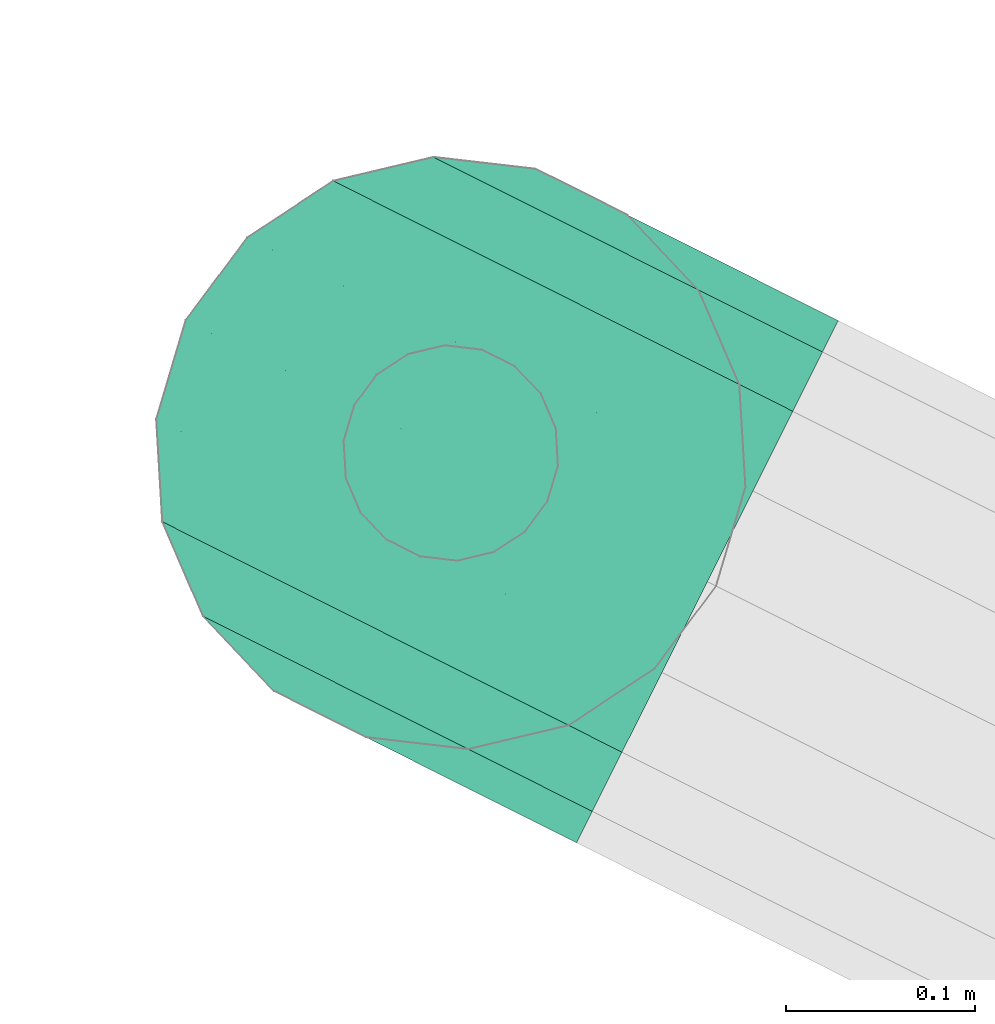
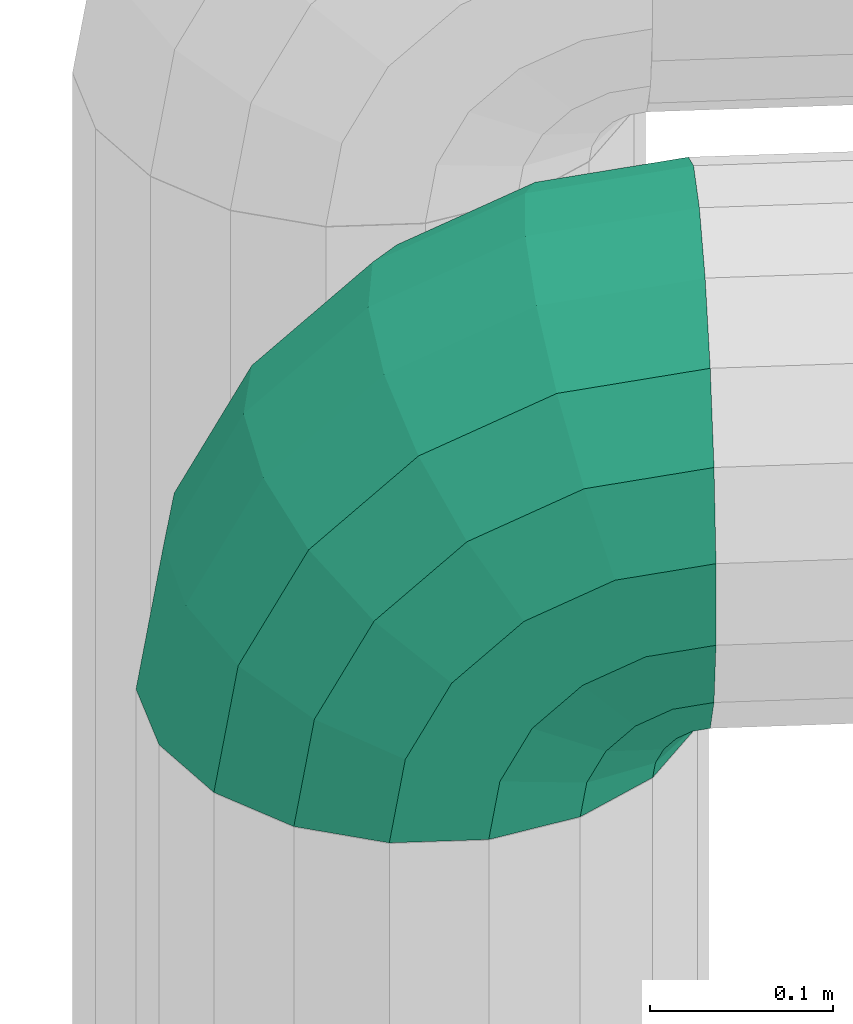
# One storey, part 48 of 152: 1 flow segment.
"""IFC2X3 building model written with IfcOpenShell, lengths in metres."""

from ifc_helpers import new_model, si_unit, derived_unit, direction, frame, origin, place, context, subcontext, project, spatial, face_set, surface_model, source, transform, mapped, material, type_object, type_shapes, element, save


model = new_model("IFC2X3")

# Units and contexts
model_context = context("Model", 3, precision=5.2338327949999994e-05, world=origin(), true_north=direction((0.0, 1.0)))
body_context = subcontext(model_context, "Body", "Model", "MODEL_VIEW")
ifc_project = project(units=[si_unit("LENGTHUNIT", "METRE"), si_unit("AREAUNIT", "SQUARE_METRE"), si_unit("VOLUMEUNIT", "CUBIC_METRE"), si_unit("MASSUNIT", "GRAM", prefix="KILO"), si_unit("PLANEANGLEUNIT", "RADIAN"), derived_unit("THERMALTRANSMITTANCEUNIT", [(si_unit("MASSUNIT", "GRAM", prefix="KILO"), 1), (si_unit("THERMODYNAMICTEMPERATUREUNIT", "KELVIN"), -1), (si_unit("TIMEUNIT", "SECOND"), -3)])], contexts=[model_context])

# Site, building, storey
site_placement = place(None, frame((0.0, 0.0, 0.0), z_axis=(0.0, 0.0, 1.0), x_axis=(0.8939966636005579, -0.4480736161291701, 0.0)))
site = spatial("IfcSite", under=ifc_project, at=site_placement, Name="Default", CompositionType="ELEMENT")
building_placement = place(site_placement, origin())
building = spatial("IfcBuilding", under=site, at=building_placement, CompositionType="ELEMENT")
storey_placement = place(building_placement, frame((0.0, 0.0, 2.7499999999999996)))
storey = spatial("IfcBuildingStorey", under=building, at=storey_placement, Name="1. Obergeschoss", CompositionType="ELEMENT", Elevation=2.7499999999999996)

# Flow segment
ifc_material = material(Name="IfcSurfaceStyle #9317")
distribution_element_type = type_object("IfcDistributionElementType", Name="Rohrbogen 9292:Rohrbogen 9292", material=ifc_material)
shared_shape = source(origin(), body_context, "Body", "SurfaceModel", [
    surface_model("IfcFaceBasedSurfaceModel", [(17.579318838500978, 6.766167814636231, 6.5830307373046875), (17.56908225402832, 6.766167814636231, 6.518399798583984), (17.572528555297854, 6.746621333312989, 6.518399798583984), (17.58259654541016, 6.746621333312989, 6.581965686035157), (17.60902632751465, 6.766167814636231, 6.641335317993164), (17.611814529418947, 6.746621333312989, 6.6393092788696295), (17.655296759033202, 6.766167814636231, 6.687605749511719), (17.6573233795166, 6.746621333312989, 6.684817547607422), (17.71360133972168, 6.766167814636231, 6.717313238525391), (17.714666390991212, 6.746621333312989, 6.7140355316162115), (17.778232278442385, 6.766167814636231, 6.727549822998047), (17.778232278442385, 6.746621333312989, 6.724103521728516), (17.59203550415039, 6.729432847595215, 6.578899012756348), (17.58245353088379, 6.729432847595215, 6.518399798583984), (17.61984310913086, 6.729432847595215, 6.633476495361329), (17.663156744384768, 6.729432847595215, 6.676788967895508), (17.717733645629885, 6.729432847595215, 6.70459715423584), (17.778232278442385, 6.729432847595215, 6.714179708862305), (17.59765725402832, 6.716674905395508, 6.518399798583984), (17.606495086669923, 6.716674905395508, 6.574200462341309), (17.632144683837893, 6.716674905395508, 6.624539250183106), (17.672093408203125, 6.716674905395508, 6.66448797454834), (17.722432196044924, 6.716674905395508, 6.690136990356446), (17.778232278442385, 6.716674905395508, 6.698974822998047), (17.62423353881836, 6.709886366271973, 6.568437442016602), (17.61630844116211, 6.709886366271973, 6.518399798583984), (17.647233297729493, 6.709886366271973, 6.613576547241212), (17.683055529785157, 6.709886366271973, 6.649399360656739), (17.728194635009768, 6.709886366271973, 6.672399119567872), (17.778232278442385, 6.709886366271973, 6.680324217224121), (17.636156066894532, 6.709886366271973, 6.518399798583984), (17.643110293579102, 6.709886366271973, 6.562304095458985), (17.66329045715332, 6.709886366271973, 6.601910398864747), (17.694722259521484, 6.709886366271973, 6.633341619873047), (17.734327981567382, 6.709886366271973, 6.653522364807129), (17.778232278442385, 6.709886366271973, 6.660476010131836), (17.66084874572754, 6.716674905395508, 6.556540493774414), (17.65480725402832, 6.716674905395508, 6.518399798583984), (17.678379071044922, 6.716674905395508, 6.590947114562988), (17.705685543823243, 6.716674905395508, 6.618253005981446), (17.740091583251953, 6.716674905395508, 6.635783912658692), (17.778232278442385, 6.716674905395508, 6.641824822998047), (17.67530832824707, 6.729432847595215, 6.551841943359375), (17.670012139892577, 6.729432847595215, 6.518399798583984), (17.690680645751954, 6.729432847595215, 6.5820104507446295), (17.714622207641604, 6.729432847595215, 6.605952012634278), (17.744790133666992, 6.729432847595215, 6.6213237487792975), (17.778232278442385, 6.729432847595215, 6.626620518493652), (17.67993595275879, 6.746621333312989, 6.518399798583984), (17.684747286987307, 6.746621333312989, 6.548775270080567), (17.69870922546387, 6.746621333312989, 6.576177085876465), (17.720455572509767, 6.746621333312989, 6.5979234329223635), (17.747857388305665, 6.746621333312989, 6.611885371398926), (17.778232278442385, 6.746621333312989, 6.616696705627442), (17.68338225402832, 6.766167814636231, 6.518399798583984), (17.688024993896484, 6.766167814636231, 6.547710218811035), (17.701497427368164, 6.766167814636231, 6.574151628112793), (17.72248103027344, 6.766167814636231, 6.595135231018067), (17.748922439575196, 6.766167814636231, 6.608607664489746), (17.778232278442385, 6.766167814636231, 6.613249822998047), (17.684747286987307, 6.785714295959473, 6.548775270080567), (17.67993595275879, 6.785714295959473, 6.518399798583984), (17.69870922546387, 6.785714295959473, 6.576177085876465), (17.720455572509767, 6.785714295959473, 6.5979234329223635), (17.747857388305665, 6.785714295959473, 6.611885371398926), (17.778232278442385, 6.785714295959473, 6.616696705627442), (17.670012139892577, 6.802903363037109, 6.518399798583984), (17.67530832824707, 6.802903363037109, 6.551841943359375), (17.690680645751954, 6.802903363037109, 6.5820104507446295), (17.714622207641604, 6.802903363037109, 6.605952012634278), (17.744790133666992, 6.802903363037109, 6.6213237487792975), (17.778232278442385, 6.802903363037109, 6.626620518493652), (17.65480725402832, 6.815661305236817, 6.518399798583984), (17.66084874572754, 6.815661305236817, 6.556540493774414), (17.678379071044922, 6.815661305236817, 6.590947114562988), (17.705685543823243, 6.815661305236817, 6.618253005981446), (17.740091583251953, 6.815661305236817, 6.635783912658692), (17.778232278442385, 6.815661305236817, 6.641824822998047), (17.643110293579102, 6.822449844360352, 6.562304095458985), (17.636156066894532, 6.822449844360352, 6.518399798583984), (17.66329045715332, 6.822449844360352, 6.601910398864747), (17.694722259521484, 6.822449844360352, 6.633341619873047), (17.734327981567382, 6.822449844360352, 6.653522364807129), (17.778232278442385, 6.822449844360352, 6.660476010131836), (17.62423353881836, 6.822449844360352, 6.568437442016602), (17.61630844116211, 6.822449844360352, 6.518399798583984), (17.647233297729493, 6.822449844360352, 6.613576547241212), (17.683055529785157, 6.822449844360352, 6.649399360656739), (17.728194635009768, 6.822449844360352, 6.672399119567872), (17.778232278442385, 6.822449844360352, 6.680324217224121), (17.59765725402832, 6.815661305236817, 6.518399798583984), (17.606495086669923, 6.815661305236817, 6.574200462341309), (17.632144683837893, 6.815661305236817, 6.624539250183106), (17.672093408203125, 6.815661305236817, 6.66448797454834), (17.722432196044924, 6.815661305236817, 6.690136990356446), (17.778232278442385, 6.815661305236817, 6.698974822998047), (17.58245353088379, 6.802903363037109, 6.518399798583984), (17.59203550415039, 6.802903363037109, 6.578899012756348), (17.61984310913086, 6.802903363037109, 6.633476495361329), (17.663156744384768, 6.802903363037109, 6.676788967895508), (17.717733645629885, 6.802903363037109, 6.70459715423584), (17.778232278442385, 6.802903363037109, 6.714179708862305), (17.572528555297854, 6.785714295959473, 6.518399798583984), (17.58259654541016, 6.785714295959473, 6.581965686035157), (17.611814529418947, 6.785714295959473, 6.6393092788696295), (17.6573233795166, 6.785714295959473, 6.684817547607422), (17.714666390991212, 6.785714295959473, 6.7140355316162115), (17.778232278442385, 6.785714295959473, 6.724103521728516), (17.48421301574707, 6.766167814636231, 6.61393233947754), (17.469082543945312, 6.766167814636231, 6.518399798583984), (17.478559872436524, 6.7124193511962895, 6.518399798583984), (17.493226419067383, 6.7124193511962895, 6.611004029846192), (17.52812428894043, 6.766167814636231, 6.700113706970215), (17.53579242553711, 6.7124193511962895, 6.694543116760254), (17.596518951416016, 6.766167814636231, 6.7685077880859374), (17.60208954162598, 6.7124193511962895, 6.760840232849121), (17.68269973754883, 6.766167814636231, 6.812419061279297), (17.68562862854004, 6.7124193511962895, 6.803405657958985), (17.778232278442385, 6.766167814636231, 6.8275501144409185), (17.778232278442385, 6.7124193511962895, 6.818072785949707), (17.505848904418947, 6.665153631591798, 6.518399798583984), (17.519179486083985, 6.665153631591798, 6.602571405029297), (17.55786898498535, 6.665153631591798, 6.6785033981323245), (17.61812926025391, 6.665153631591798, 6.738763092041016), (17.69406067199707, 6.665153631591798, 6.777452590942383), (17.778232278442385, 6.665153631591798, 6.790783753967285), (17.54765798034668, 6.630072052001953, 6.518399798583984), (17.55894217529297, 6.630072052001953, 6.589651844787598), (17.59169366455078, 6.630072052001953, 6.653928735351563), (17.642703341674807, 6.630072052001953, 6.70493899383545), (17.706980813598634, 6.630072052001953, 6.737689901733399), (17.778232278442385, 6.630072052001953, 6.748975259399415), (17.5989432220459, 6.6114051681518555, 6.518399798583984), (17.607718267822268, 6.6114051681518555, 6.573803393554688), (17.633185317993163, 6.6114051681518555, 6.623783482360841), (17.67284917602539, 6.6114051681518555, 6.66344792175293), (17.72282868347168, 6.6114051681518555, 6.688913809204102), (17.778232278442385, 6.6114051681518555, 6.697688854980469), (17.659625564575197, 6.6114051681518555, 6.556938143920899), (17.653521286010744, 6.6114051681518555, 6.518399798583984), (17.67733843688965, 6.6114051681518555, 6.591703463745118), (17.70492861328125, 6.6114051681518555, 6.6192936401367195), (17.739695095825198, 6.6114051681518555, 6.637007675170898), (17.778232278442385, 6.6114051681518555, 6.643111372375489), (17.70480769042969, 6.630072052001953, 6.518399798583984), (17.708401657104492, 6.630072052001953, 6.541089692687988), (17.71883009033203, 6.630072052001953, 6.561558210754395), (17.73507444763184, 6.630072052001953, 6.577801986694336), (17.755542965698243, 6.630072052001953, 6.588231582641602), (17.778232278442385, 6.630072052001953, 6.591824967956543), (17.74816318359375, 6.665153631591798, 6.52817013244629), (17.746616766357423, 6.665153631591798, 6.518399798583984), (17.75265476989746, 6.665153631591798, 6.536983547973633), (17.759648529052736, 6.665153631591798, 6.54397788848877), (17.76846194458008, 6.665153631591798, 6.548468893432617), (17.778232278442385, 6.665153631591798, 6.550015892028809), (17.773904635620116, 6.7124193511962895, 6.518399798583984), (17.774117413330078, 6.7124193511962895, 6.519736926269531), (17.774731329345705, 6.7124193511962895, 6.52094324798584), (17.775689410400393, 6.7124193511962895, 6.5219007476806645), (17.776895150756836, 6.7124193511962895, 6.5225152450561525), (17.778232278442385, 6.7124193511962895, 6.52272744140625), (17.778232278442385, 6.73696203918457, 6.518399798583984), (17.778232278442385, 6.736294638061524, 6.519143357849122), (17.778232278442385, 6.7953741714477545, 6.518399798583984), (17.778232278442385, 6.796041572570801, 6.519143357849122), (17.774117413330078, 6.819916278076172, 6.519736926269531), (17.773904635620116, 6.819916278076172, 6.518399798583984), (17.774731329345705, 6.819916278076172, 6.52094324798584), (17.775689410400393, 6.819916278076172, 6.5219007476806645), (17.776895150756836, 6.819916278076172, 6.5225152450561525), (17.778232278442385, 6.819916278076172, 6.52272744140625), (17.74816318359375, 6.867181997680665, 6.52817013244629), (17.746616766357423, 6.867181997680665, 6.518399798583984), (17.75265476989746, 6.867181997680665, 6.536983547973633), (17.759648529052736, 6.867181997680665, 6.54397788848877), (17.76846194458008, 6.867181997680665, 6.548468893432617), (17.778232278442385, 6.867181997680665, 6.550015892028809), (17.70480769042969, 6.902263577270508, 6.518399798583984), (17.708401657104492, 6.902263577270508, 6.541089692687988), (17.71883009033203, 6.902263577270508, 6.561558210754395), (17.73507444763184, 6.902263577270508, 6.577801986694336), (17.755542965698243, 6.902263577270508, 6.588231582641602), (17.778232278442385, 6.902263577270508, 6.591824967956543), (17.653521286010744, 6.920930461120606, 6.518399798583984), (17.659625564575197, 6.920930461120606, 6.556938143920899), (17.67733843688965, 6.920930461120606, 6.591703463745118), (17.70492861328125, 6.920930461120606, 6.6192936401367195), (17.739695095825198, 6.920930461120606, 6.637007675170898), (17.778232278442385, 6.920930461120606, 6.643111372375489), (17.5989432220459, 6.920930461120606, 6.518399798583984), (17.607718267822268, 6.920930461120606, 6.573803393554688), (17.633185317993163, 6.920930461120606, 6.623783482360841), (17.67284917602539, 6.920930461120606, 6.66344792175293), (17.72282868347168, 6.920930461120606, 6.688913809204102), (17.778232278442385, 6.920930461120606, 6.697688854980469), (17.55894217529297, 6.902263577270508, 6.589651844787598), (17.54765798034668, 6.902263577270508, 6.518399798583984), (17.59169366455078, 6.902263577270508, 6.653928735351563), (17.642703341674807, 6.902263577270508, 6.70493899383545), (17.706980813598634, 6.902263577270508, 6.737689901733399), (17.778232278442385, 6.902263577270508, 6.748975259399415), (17.505848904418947, 6.867181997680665, 6.518399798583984), (17.519179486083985, 6.867181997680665, 6.602571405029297), (17.55786898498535, 6.867181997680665, 6.6785033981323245), (17.61812926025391, 6.867181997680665, 6.738763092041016), (17.69406067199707, 6.867181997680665, 6.777452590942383), (17.778232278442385, 6.867181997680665, 6.790783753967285), (17.478559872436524, 6.819916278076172, 6.518399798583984), (17.493226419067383, 6.819916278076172, 6.611004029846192), (17.53579242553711, 6.819916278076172, 6.694543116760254), (17.60208954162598, 6.819916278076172, 6.760840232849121), (17.68562862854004, 6.819916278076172, 6.803405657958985), (17.778232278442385, 6.819916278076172, 6.818072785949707)], [face_set([[[0, 1, 2]], [[2, 3, 0]], [[4, 0, 3]], [[3, 5, 4]], [[6, 4, 7]], [[5, 7, 4]], [[8, 6, 7]], [[7, 9, 8]], [[10, 8, 9]], [[9, 11, 10]], [[3, 2, 12]], [[13, 12, 2]], [[5, 3, 14]], [[12, 14, 3]], [[7, 5, 15]], [[14, 15, 5]], [[9, 7, 16]], [[15, 16, 7]], [[11, 9, 17]], [[16, 17, 9]], [[12, 13, 18]], [[18, 19, 12]], [[14, 12, 19]], [[19, 20, 14]], [[15, 14, 21]], [[20, 21, 14]], [[16, 15, 21]], [[21, 22, 16]], [[17, 16, 22]], [[22, 23, 17]], [[19, 18, 24]], [[25, 24, 18]], [[20, 19, 26]], [[24, 26, 19]], [[21, 20, 26]], [[26, 27, 21]], [[22, 21, 27]], [[27, 28, 22]], [[23, 22, 28]], [[28, 29, 23]], [[24, 25, 30]], [[30, 31, 24]], [[26, 24, 32]], [[31, 32, 24]], [[27, 26, 32]], [[32, 33, 27]], [[28, 27, 33]], [[33, 34, 28]], [[29, 28, 35]], [[34, 35, 28]], [[31, 30, 36]], [[37, 36, 30]], [[32, 31, 38]], [[36, 38, 31]], [[33, 32, 38]], [[38, 39, 33]], [[34, 33, 40]], [[39, 40, 33]], [[35, 34, 41]], [[40, 41, 34]], [[36, 37, 42]], [[43, 42, 37]], [[38, 36, 44]], [[42, 44, 36]], [[39, 38, 45]], [[44, 45, 38]], [[40, 39, 46]], [[45, 46, 39]], [[41, 40, 47]], [[46, 47, 40]], [[42, 43, 48]], [[48, 49, 42]], [[44, 42, 49]], [[49, 50, 44]], [[45, 44, 50]], [[50, 51, 45]], [[46, 45, 51]], [[51, 52, 46]], [[47, 46, 52]], [[52, 53, 47]], [[49, 48, 54]], [[54, 55, 49]], [[50, 49, 56]], [[55, 56, 49]], [[51, 50, 56]], [[56, 57, 51]], [[52, 51, 58]], [[57, 58, 51]], [[53, 52, 59]], [[58, 59, 52]], [[55, 54, 60]], [[61, 60, 54]], [[56, 55, 60]], [[60, 62, 56]], [[57, 56, 63]], [[62, 63, 56]], [[58, 57, 64]], [[63, 64, 57]], [[59, 58, 65]], [[64, 65, 58]], [[60, 61, 66]], [[66, 67, 60]], [[62, 60, 68]], [[67, 68, 60]], [[63, 62, 68]], [[68, 69, 63]], [[64, 63, 69]], [[69, 70, 64]], [[65, 64, 71]], [[70, 71, 64]], [[67, 66, 72]], [[72, 73, 67]], [[68, 67, 73]], [[73, 74, 68]], [[69, 68, 75]], [[74, 75, 68]], [[70, 69, 76]], [[75, 76, 69]], [[71, 70, 77]], [[76, 77, 70]], [[73, 72, 78]], [[79, 78, 72]], [[74, 73, 78]], [[78, 80, 74]], [[75, 74, 80]], [[80, 81, 75]], [[76, 75, 81]], [[81, 82, 76]], [[77, 76, 83]], [[82, 83, 76]], [[78, 79, 84]], [[85, 84, 79]], [[80, 78, 84]], [[84, 86, 80]], [[81, 80, 87]], [[86, 87, 80]], [[82, 81, 88]], [[87, 88, 81]], [[83, 82, 88]], [[88, 89, 83]], [[84, 85, 90]], [[90, 91, 84]], [[86, 84, 91]], [[91, 92, 86]], [[87, 86, 92]], [[92, 93, 87]], [[88, 87, 94]], [[93, 94, 87]], [[89, 88, 95]], [[94, 95, 88]], [[91, 90, 96]], [[96, 97, 91]], [[92, 91, 97]], [[97, 98, 92]], [[93, 92, 98]], [[98, 99, 93]], [[94, 93, 100]], [[99, 100, 93]], [[95, 94, 100]], [[100, 101, 95]], [[97, 96, 102]], [[102, 103, 97]], [[98, 97, 104]], [[103, 104, 97]], [[99, 98, 105]], [[104, 105, 98]], [[100, 99, 105]], [[105, 106, 100]], [[101, 100, 106]], [[106, 107, 101]], [[103, 102, 0]], [[1, 0, 102]], [[104, 103, 4]], [[0, 4, 103]], [[105, 104, 4]], [[4, 6, 105]], [[106, 105, 8]], [[6, 8, 105]], [[107, 106, 10]], [[8, 10, 106]], [[108, 109, 110]], [[110, 111, 108]], [[112, 108, 113]], [[111, 113, 108]], [[114, 112, 113]], [[113, 115, 114]], [[116, 114, 115]], [[115, 117, 116]], [[118, 116, 117]], [[117, 119, 118]], [[111, 110, 120]], [[120, 121, 111]], [[113, 111, 121]], [[121, 122, 113]], [[115, 113, 122]], [[122, 123, 115]], [[117, 115, 123]], [[123, 124, 117]], [[119, 117, 124]], [[124, 125, 119]], [[121, 120, 126]], [[126, 127, 121]], [[122, 121, 127]], [[127, 128, 122]], [[123, 122, 128]], [[128, 129, 123]], [[124, 123, 129]], [[129, 130, 124]], [[125, 124, 130]], [[130, 131, 125]], [[127, 126, 132]], [[132, 133, 127]], [[128, 127, 134]], [[133, 134, 127]], [[129, 128, 134]], [[134, 135, 129]], [[130, 129, 136]], [[135, 136, 129]], [[131, 130, 137]], [[136, 137, 130]], [[133, 132, 138]], [[139, 138, 132]], [[134, 133, 138]], [[138, 140, 134]], [[135, 134, 140]], [[140, 141, 135]], [[136, 135, 141]], [[141, 142, 136]], [[137, 136, 142]], [[142, 143, 137]], [[138, 139, 144]], [[144, 145, 138]], [[140, 138, 145]], [[145, 146, 140]], [[141, 140, 146]], [[146, 147, 141]], [[142, 141, 148]], [[147, 148, 141]], [[143, 142, 148]], [[148, 149, 143]], [[145, 144, 150]], [[151, 150, 144]], [[146, 145, 152]], [[150, 152, 145]], [[147, 146, 152]], [[152, 153, 147]], [[148, 147, 154]], [[153, 154, 147]], [[149, 148, 154]], [[154, 155, 149]], [[150, 151, 156]], [[156, 157, 150]], [[152, 150, 158]], [[157, 158, 150]], [[153, 152, 158]], [[158, 159, 153]], [[154, 153, 159]], [[159, 160, 154]], [[155, 154, 160]], [[160, 161, 155]], [[162, 157, 163]], [[162, 163, 156]], [[157, 156, 163]], [[158, 157, 162]], [[159, 158, 162]], [[160, 159, 162]], [[161, 160, 162]], [[164, 165, 166]], [[167, 166, 165]], [[165, 164, 167]], [[166, 168, 164]], [[164, 168, 169]], [[169, 170, 164]], [[170, 171, 164]], [[166, 167, 172]], [[173, 172, 167]], [[168, 166, 172]], [[172, 174, 168]], [[169, 168, 175]], [[174, 175, 168]], [[170, 169, 176]], [[175, 176, 169]], [[171, 170, 177]], [[176, 177, 170]], [[172, 173, 178]], [[178, 179, 172]], [[174, 172, 179]], [[179, 180, 174]], [[175, 174, 181]], [[180, 181, 174]], [[176, 175, 182]], [[181, 182, 175]], [[177, 176, 182]], [[182, 183, 177]], [[179, 178, 184]], [[184, 185, 179]], [[180, 179, 186]], [[185, 186, 179]], [[181, 180, 186]], [[186, 187, 181]], [[182, 181, 187]], [[187, 188, 182]], [[183, 182, 188]], [[188, 189, 183]], [[185, 184, 190]], [[190, 191, 185]], [[186, 185, 192]], [[191, 192, 185]], [[187, 186, 193]], [[192, 193, 186]], [[188, 187, 194]], [[193, 194, 187]], [[189, 188, 195]], [[194, 195, 188]], [[191, 190, 196]], [[197, 196, 190]], [[192, 191, 196]], [[196, 198, 192]], [[193, 192, 199]], [[198, 199, 192]], [[194, 193, 199]], [[199, 200, 194]], [[195, 194, 200]], [[200, 201, 195]], [[196, 197, 202]], [[202, 203, 196]], [[198, 196, 204]], [[203, 204, 196]], [[199, 198, 205]], [[204, 205, 198]], [[200, 199, 206]], [[205, 206, 199]], [[201, 200, 207]], [[206, 207, 200]], [[203, 202, 208]], [[208, 209, 203]], [[204, 203, 210]], [[209, 210, 203]], [[205, 204, 210]], [[210, 211, 205]], [[206, 205, 211]], [[211, 212, 206]], [[207, 206, 213]], [[212, 213, 206]], [[209, 208, 109]], [[109, 108, 209]], [[210, 209, 112]], [[108, 112, 209]], [[211, 210, 112]], [[112, 114, 211]], [[212, 211, 116]], [[114, 116, 211]], [[213, 212, 118]], [[116, 118, 212]]])]),
])
type_shapes(distribution_element_type, [shared_shape])
flow_segment_placement = place(storey_placement, frame((0.0, 0.0, -2.7499999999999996)))
element("IfcFlowSegment", 1, at=flow_segment_placement, inside=storey, type_object=distribution_element_type, material=ifc_material, Name="Rohrbogen", ObjectType="Rohrbogen", context=body_context, shape_type="MappedRepresentation", body=[
    mapped(shared_shape, transform((0.0, 0.0, 0.0), scale=1.0)),
])

save(model, "model.ifc")
